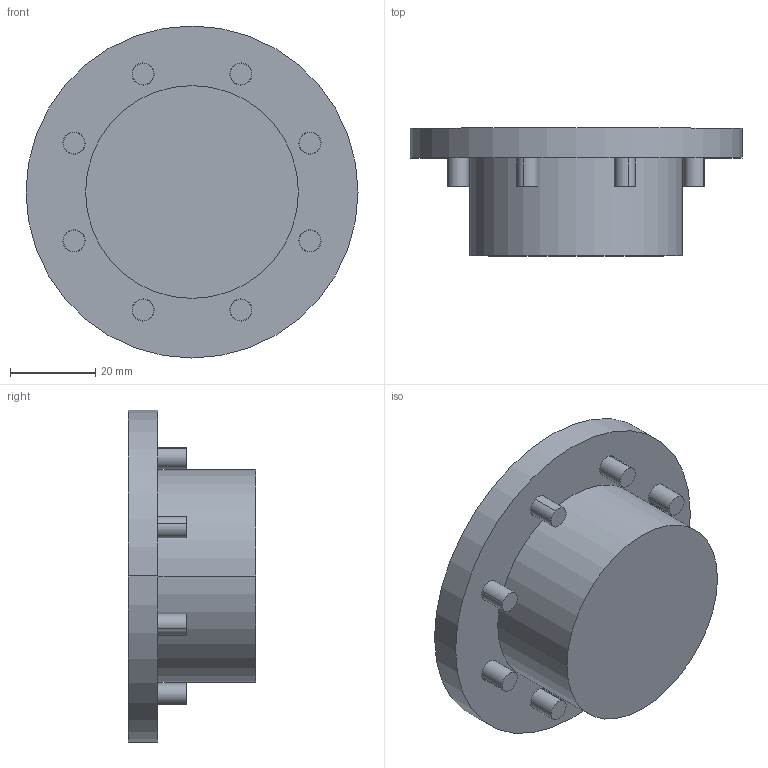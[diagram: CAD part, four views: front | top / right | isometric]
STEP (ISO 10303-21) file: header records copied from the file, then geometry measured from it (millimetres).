
FILE_DESCRIPTION( ( '' ), '1' );
FILE_NAME( 'C:/Data/AMF305375.stp', '2013-11-22T02:20:57', ( '' ), ( '' ), ' ', ' ', ' ' );
FILE_SCHEMA( ( 'CONFIG_CONTROL_DESIGN' ) );
Length unit declared in the file: millimetre
Products named in the file (1): 1
Bounding box: 78 x 30 x 78 mm (x, y, z)
Volume: 70600.7 mm3; surface area: 19888.7 mm2
Topology: 1 solids, 1 shells, 165 faces, 360 edges, 240 vertices
Faces by surface type: plane 93, cylinder 72
Entity records: 4602 total; most frequent: DIRECTION 836, CARTESIAN_POINT 766, ORIENTED_EDGE 720, EDGE_CURVE 360, AXIS2_PLACEMENT_3D 310, VERTEX_POINT 240, LINE 216, VECTOR 216
